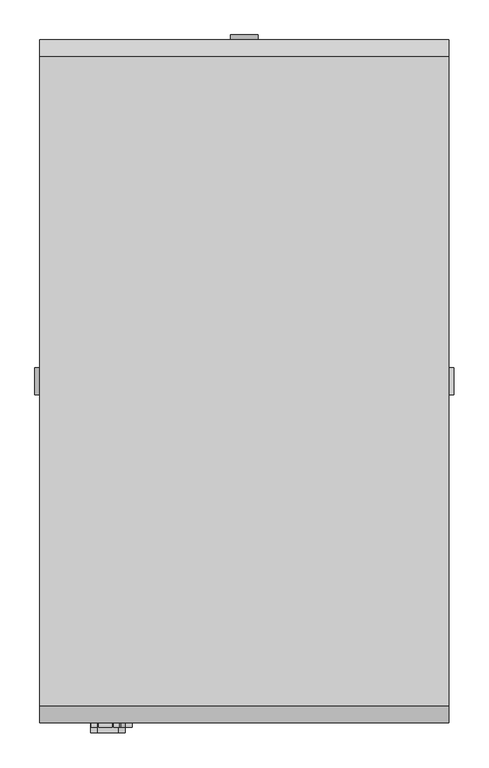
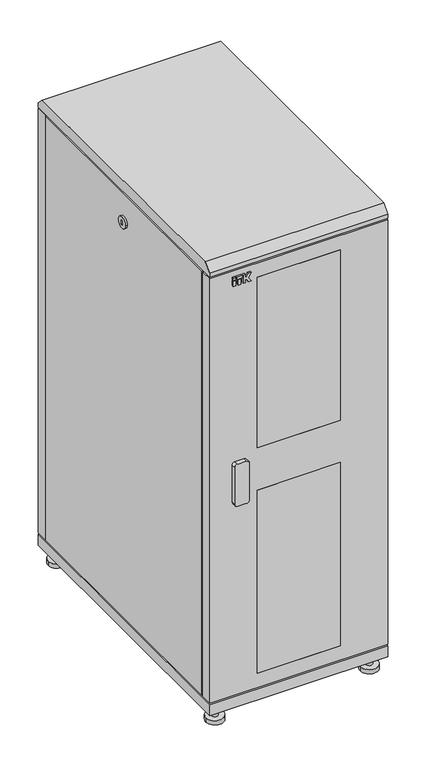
"""IFC4 building model written with IfcOpenShell, lengths in millimetres: proxy geometry, Шкафы ITK серия S_PP : LS05-33U61-PP-1."""

from ifc_helpers import new_model, si_unit, point, frame, frame_2d, origin, origin_with_axes, place, context, project, spatial, polyline, circle_curve, trimmed, segment, composite_curve, outline, extrude, faceted_brep, source, transform, mapped, element, save


def electrical_fixtures_b37db52b(model_context):
    return source(origin(), model_context, "Body", "SolidModel", [
        extrude(outline(polyline([(-215.9746193, -507.0), (-224.197592, -507.0), (-224.197592, -500.0), (-215.9746193, -500.0), (-215.9746193, -507.0)])), frame((0.0, 0.0, 1555.0), z_axis=(0.0, 0.0, 1.0), x_axis=(1.0, 0.0, 0.0)), (0.0, 0.0, 1.0), 18.8087618),
        extrude(outline(polyline([(-199.9605777, -507.0), (-207.7053315, -507.0), (-207.7053315, -500.0), (-199.9605777, -500.0), (-199.9605777, -507.0)])), frame((0.0, 0.0, 1555.0), z_axis=(0.0, 0.0, 1.0), x_axis=(1.0, 0.0, 0.0)), (0.0, 0.0, 1.0), 18.8087618),
        extrude(outline(polyline([(-215.9746193, -507.0), (-224.197592, -507.0), (-224.197592, -500.0), (-215.9746193, -500.0), (-215.9746193, -507.0)])), frame((0.0, 0.0, 1576.4305892), z_axis=(0.0, 0.0, 1.0), x_axis=(1.0, 0.0, 0.0)), (0.0, 0.0, 1.0), 7.9794747),
        extrude(outline(polyline([(1555.0, -191.5184175), (1555.0, -183.7669278), (1566.0271455, -183.7669278), (1566.0271455, -180.8031229), (1555.0, -173.6420108), (1555.0, -164.197592), (1569.7278745, -174.8980192), (1584.410064, -164.197592), (1584.410064, -173.6420108), (1573.3829184, -180.8031229), (1573.3829184, -183.7669278), (1584.410064, -183.7669278), (1584.410064, -191.5184175), (1555.0, -191.5184175)])), frame((0.0, -507.0, 0.0), z_axis=(0.0, 1.0, 0.0), x_axis=(0.0, 0.0, 1.0)), (0.0, 0.0, 1.0), 7.0),
        extrude(outline(polyline([(-194.0851324, -507.0), (-213.5807768, -507.0), (-213.5807768, -500.0), (-194.0851324, -500.0), (-194.0851324, -507.0)])), frame((0.0, 0.0, 1576.4305892), z_axis=(0.0, 0.0, 1.0), x_axis=(1.0, 0.0, 0.0)), (0.0, 0.0, 1.0), 7.9794747),
        extrude(outline(composite_curve([segment(polyline([(925.0, -185.0), (925.0, -215.0)]), True, "CONTINUOUS"), segment(trimmed(circle_curve(frame_2d((915.0, -215.0)), 10.0), [point((925.0, -215.0))], [point((915.0, -225.0))], False, "CARTESIAN"), True, "CONTINUOUS"), segment(polyline([(915.0, -225.0), (785.0, -225.0)]), True, "CONTINUOUS"), segment(trimmed(circle_curve(frame_2d((785.0, -215.0)), 10.0), [point((785.0, -225.0))], [point((775.0, -215.0))], False, "CARTESIAN"), True, "CONTINUOUS"), segment(polyline([(775.0, -215.0), (775.0, -185.0)]), True, "CONTINUOUS"), segment(trimmed(circle_curve(frame_2d((785.0, -185.0)), 10.0), [point((775.0, -185.0))], [point((785.0, -175.0))], False, "CARTESIAN"), True, "CONTINUOUS"), segment(polyline([(785.0, -175.0), (915.0, -175.0)]), True, "CONTINUOUS"), segment(trimmed(circle_curve(frame_2d((915.0, -185.0)), 10.0), [point((915.0, -175.0))], [point((925.0, -185.0))], False, "CARTESIAN"), True, "CONTINUOUS")], self_intersect=False)), frame((0.0, -515.0, 0.0), z_axis=(0.0, 1.0, 0.0), x_axis=(0.0, 0.0, 1.0)), (0.0, 0.0, 1.0), 15.0),
        faceted_brep([(-260.0, -480.0, 1605.0), (-260.0, -445.0, 1605.0), (-270.0, -445.0, 1605.0), (-270.0, -460.0, 1605.0), (-300.0, -460.0, 1605.0), (-300.0, -500.0, 1605.0), (300.0, -500.0, 1605.0), (300.0, -460.0, 1605.0), (270.0, -460.0, 1605.0), (270.0, -445.0, 1605.0), (260.0, -445.0, 1605.0), (260.0, -480.0, 1605.0), (-300.0, -500.0, 95.0), (-300.0, -460.0, 95.0), (-270.0, -460.0, 95.0), (-270.0, -445.0, 95.0), (-260.0, -445.0, 95.0), (-260.0, -480.0, 95.0), (260.0, -480.0, 95.0), (260.0, -445.0, 95.0), (270.0, -445.0, 95.0), (270.0, -460.0, 95.0), (300.0, -460.0, 95.0), (300.0, -500.0, 95.0), (-140.0, -500.0, 797.5), (140.0, -500.0, 797.5), (140.0, -500.0, 145.0), (-140.0, -500.0, 145.0), (-140.0, -500.0, 1555.0), (140.0, -500.0, 1555.0), (140.0, -500.0, 947.5), (-140.0, -500.0, 947.5), (-140.0, -480.0, 145.0), (140.0, -480.0, 145.0), (140.0, -480.0, 797.5), (-140.0, -480.0, 797.5), (-140.0, -480.0, 947.5), (140.0, -480.0, 947.5), (140.0, -480.0, 1555.0), (-140.0, -480.0, 1555.0)], [[[0, 1, 2, 3, 4, 5, 6, 7, 8, 9, 10, 11]], [[12, 13, 14, 15, 16, 17, 18, 19, 20, 21, 22, 23]], [[6, 5, 12, 23], [24, 25, 26, 27], [28, 29, 30, 31]], [[5, 4, 13, 12]], [[4, 3, 14, 13]], [[0, 11, 18, 17], [32, 33, 34, 35], [36, 37, 38, 39]], [[32, 35, 24, 27]], [[36, 39, 28, 31]], [[34, 33, 26, 25]], [[38, 37, 30, 29]], [[27, 26, 33, 32]], [[31, 30, 37, 36]], [[25, 24, 35, 34]], [[29, 28, 39, 38]], [[1, 0, 17, 16]], [[2, 1, 16, 15]], [[3, 2, 15, 14]], [[7, 6, 23, 22]], [[8, 7, 22, 21]], [[9, 8, 21, 20]], [[10, 9, 20, 19]], [[11, 10, 19, 18]]]),
        extrude(outline(polyline([(140.0, -500.0), (-140.0, -500.0), (-140.0, -480.0), (140.0, -480.0), (140.0, -500.0)])), frame((0.0, 0.0, 947.5), z_axis=(0.0, 0.0, 1.0), x_axis=(1.0, 0.0, 0.0)), (0.0, 0.0, 1.0), 607.5),
        extrude(outline(polyline([(140.0, -500.0), (-140.0, -500.0), (-140.0, -480.0), (140.0, -480.0), (140.0, -500.0)])), frame((0.0, 0.0, 145.0), z_axis=(0.0, 0.0, 1.0), x_axis=(1.0, 0.0, 0.0)), (0.0, 0.0, 1.0), 652.5),
        extrude(outline(composite_curve([segment(trimmed(circle_curve(frame_2d((-260.0, 460.0)), 10.0), [point((-250.0, 460.0))], [point((-270.0, 460.0))], False, "CARTESIAN"), True, "CONTINUOUS"), segment(trimmed(circle_curve(frame_2d((-260.0, 460.0)), 10.0), [point((-270.0, 460.0))], [point((-250.0, 460.0))], False, "CARTESIAN"), True, "CONTINUOUS")], self_intersect=False)), frame((0.0, 0.0, 15.0), z_axis=(0.0, 0.0, 1.0), x_axis=(1.0, 0.0, 0.0)), (0.0, 0.0, 1.0), 35.0),
        extrude(outline(composite_curve([segment(trimmed(circle_curve(frame_2d((260.0, 460.0)), 10.0), [point((270.0, 460.0))], [point((250.0, 460.0))], False, "CARTESIAN"), True, "CONTINUOUS"), segment(trimmed(circle_curve(frame_2d((260.0, 460.0)), 10.0), [point((250.0, 460.0))], [point((270.0, 460.0))], False, "CARTESIAN"), True, "CONTINUOUS")], self_intersect=False)), frame((0.0, 0.0, 15.0), z_axis=(0.0, 0.0, 1.0), x_axis=(1.0, 0.0, 0.0)), (0.0, 0.0, 1.0), 35.0),
        extrude(outline(composite_curve([segment(trimmed(circle_curve(frame_2d((-260.0, -460.0)), 10.0), [point((-250.0, -460.0))], [point((-270.0, -460.0))], False, "CARTESIAN"), True, "CONTINUOUS"), segment(trimmed(circle_curve(frame_2d((-260.0, -460.0)), 10.0), [point((-270.0, -460.0))], [point((-250.0, -460.0))], False, "CARTESIAN"), True, "CONTINUOUS")], self_intersect=False)), frame((0.0, 0.0, 15.0), z_axis=(0.0, 0.0, 1.0), x_axis=(1.0, 0.0, 0.0)), (0.0, 0.0, 1.0), 35.0),
        extrude(outline(composite_curve([segment(trimmed(circle_curve(frame_2d((260.0, -460.0)), 10.0), [point((270.0, -460.0))], [point((250.0, -460.0))], False, "CARTESIAN"), True, "CONTINUOUS"), segment(trimmed(circle_curve(frame_2d((260.0, -460.0)), 10.0), [point((250.0, -460.0))], [point((270.0, -460.0))], False, "CARTESIAN"), True, "CONTINUOUS")], self_intersect=False)), frame((0.0, 0.0, 15.0), z_axis=(0.0, 0.0, 1.0), x_axis=(1.0, 0.0, 0.0)), (0.0, 0.0, 1.0), 35.0),
        extrude(outline(composite_curve([segment(trimmed(circle_curve(frame_2d((-260.0, 460.0)), 30.0), [point((-230.0, 460.0))], [point((-290.0, 460.0))], False, "CARTESIAN"), True, "CONTINUOUS"), segment(trimmed(circle_curve(frame_2d((-260.0, 460.0)), 30.0), [point((-290.0, 460.0))], [point((-230.0, 460.0))], False, "CARTESIAN"), True, "CONTINUOUS")], self_intersect=False)), origin_with_axes(), (0.0, 0.0, 1.0), 15.0),
        extrude(outline(composite_curve([segment(trimmed(circle_curve(frame_2d((260.0, 460.0)), 30.0), [point((290.0, 460.0))], [point((230.0, 460.0))], False, "CARTESIAN"), True, "CONTINUOUS"), segment(trimmed(circle_curve(frame_2d((260.0, 460.0)), 30.0), [point((230.0, 460.0))], [point((290.0, 460.0))], False, "CARTESIAN"), True, "CONTINUOUS")], self_intersect=False)), origin_with_axes(), (0.0, 0.0, 1.0), 15.0),
        extrude(outline(composite_curve([segment(trimmed(circle_curve(frame_2d((-260.0, -460.0)), 30.0), [point((-230.0, -460.0))], [point((-290.0, -460.0))], False, "CARTESIAN"), True, "CONTINUOUS"), segment(trimmed(circle_curve(frame_2d((-260.0, -460.0)), 30.0), [point((-290.0, -460.0))], [point((-230.0, -460.0))], False, "CARTESIAN"), True, "CONTINUOUS")], self_intersect=False)), origin_with_axes(), (0.0, 0.0, 1.0), 15.0),
        extrude(outline(composite_curve([segment(trimmed(circle_curve(frame_2d((260.0, -460.0)), 30.0), [point((290.0, -460.0))], [point((230.0, -460.0))], False, "CARTESIAN"), True, "CONTINUOUS"), segment(trimmed(circle_curve(frame_2d((260.0, -460.0)), 30.0), [point((230.0, -460.0))], [point((290.0, -460.0))], False, "CARTESIAN"), True, "CONTINUOUS")], self_intersect=False)), origin_with_axes(), (0.0, 0.0, 1.0), 15.0),
        extrude(outline(polyline([(-475.0, 1650.0), (475.0, 1650.0), (500.0, 1625.0), (500.0, 1610.0), (-500.0, 1610.0), (-500.0, 1625.0), (-475.0, 1650.0)])), frame((-300.0, 0.0, 0.0), z_axis=(1.0, 0.0, 0.0), x_axis=(0.0, 1.0, 0.0)), (0.0, 0.0, 1.0), 600.0),
        extrude(outline(polyline([(260.0, 460.0), (260.0, 445.0), (290.0, 445.0), (290.0, -445.0), (260.0, -445.0), (260.0, -460.0), (245.0, -460.0), (245.0, -480.0), (-245.0, -480.0), (-245.0, -460.0), (-260.0, -460.0), (-260.0, -445.0), (-290.0, -445.0), (-290.0, 445.0), (-260.0, 445.0), (-260.0, 460.0), (-245.0, 460.0), (-245.0, 490.0), (245.0, 490.0), (245.0, 460.0), (260.0, 460.0)])), frame((0.0, 0.0, 90.0), z_axis=(0.0, 0.0, 1.0), x_axis=(1.0, 0.0, 0.0)), (0.0, 0.0, 1.0), 5.0),
        extrude(outline(polyline([(260.0, 460.0), (260.0, 445.0), (290.0, 445.0), (290.0, -445.0), (260.0, -445.0), (260.0, -460.0), (245.0, -460.0), (245.0, -480.0), (-245.0, -480.0), (-245.0, -460.0), (-260.0, -460.0), (-260.0, -445.0), (-290.0, -445.0), (-290.0, 445.0), (-260.0, 445.0), (-260.0, 460.0), (-245.0, 460.0), (-245.0, 490.0), (245.0, 490.0), (245.0, 460.0), (260.0, 460.0)])), frame((0.0, 0.0, 1605.0), z_axis=(0.0, 0.0, 1.0), x_axis=(1.0, 0.0, 0.0)), (0.0, 0.0, 1.0), 5.0),
        extrude(outline(polyline([(300.0, -500.0), (-300.0, -500.0), (-300.0, 500.0), (300.0, 500.0), (300.0, -500.0)])), frame((0.0, 0.0, 50.0), z_axis=(0.0, 0.0, 1.0), x_axis=(1.0, 0.0, 0.0)), (0.0, 0.0, 1.0), 40.0),
        extrude(outline(composite_curve([segment(trimmed(circle_curve(frame_2d((1505.0, 0.0)), 20.0), [point((1505.0, 20.0))], [point((1505.0, -20.0))], False, "CARTESIAN"), True, "CONTINUOUS"), segment(trimmed(circle_curve(frame_2d((1505.0, 0.0)), 20.0), [point((1505.0, -20.0))], [point((1505.0, 20.0))], False, "CARTESIAN"), True, "CONTINUOUS")], self_intersect=False), holes=[polyline([(1496.7814397, -3.0), (1513.2185603, -3.0), (1513.2185603, 3.0), (1496.7814397, 3.0), (1496.7814397, -3.0)])]), frame((0.0, 500.0, 0.0), z_axis=(0.0, 1.0, 0.0), x_axis=(0.0, 0.0, 1.0)), (0.0, 0.0, 1.0), 7.0),
        extrude(outline(polyline([(300.0, 500.0), (300.0, 460.0), (270.0, 460.0), (270.0, 445.0), (260.0, 445.0), (260.0, 490.0), (-260.0, 490.0), (-260.0, 445.0), (-270.0, 445.0), (-270.0, 460.0), (-300.0, 460.0), (-300.0, 500.0), (300.0, 500.0)])), frame((0.0, 0.0, 95.0), z_axis=(0.0, 0.0, 1.0), x_axis=(1.0, 0.0, 0.0)), (0.0, 0.0, 1.0), 1510.0),
        extrude(outline(composite_curve([segment(trimmed(circle_curve(frame_2d((0.0, 1505.0)), 20.0), [point((-20.0, 1505.0))], [point((20.0, 1505.0))], False, "CARTESIAN"), True, "CONTINUOUS"), segment(trimmed(circle_curve(frame_2d((0.0, 1505.0)), 20.0), [point((20.0, 1505.0))], [point((-20.0, 1505.0))], False, "CARTESIAN"), True, "CONTINUOUS")], self_intersect=False), holes=[polyline([(3.0, 1496.7814397), (3.0, 1513.2185603), (-3.0, 1513.2185603), (-3.0, 1496.7814397), (3.0, 1496.7814397)])]), frame((300.0, 0.0, 0.0), z_axis=(1.0, 0.0, 0.0), x_axis=(0.0, 1.0, 0.0)), (0.0, 0.0, 1.0), 7.0),
        extrude(outline(composite_curve([segment(trimmed(circle_curve(frame_2d((0.0, 1505.0)), 20.0), [point((20.0, 1505.0))], [point((-20.0, 1505.0))], False, "CARTESIAN"), True, "CONTINUOUS"), segment(trimmed(circle_curve(frame_2d((0.0, 1505.0)), 20.0), [point((-20.0, 1505.0))], [point((20.0, 1505.0))], False, "CARTESIAN"), True, "CONTINUOUS")], self_intersect=False), holes=[polyline([(-3.0, 1496.7814397), (3.0, 1496.7814397), (3.0, 1513.2185603), (-3.0, 1513.2185603), (-3.0, 1496.7814397)])]), frame((-307.0, 0.0, 0.0), z_axis=(1.0, 0.0, 0.0), x_axis=(0.0, 1.0, 0.0)), (0.0, 0.0, 1.0), 7.0),
        extrude(outline(polyline([(-270.0, 455.0), (-270.0, 445.0), (-289.9803177, 445.0), (-289.9803177, -445.0), (-269.9803177, -445.0), (-269.9803177, -455.0), (-300.0, -455.0), (-300.0, 455.0), (-270.0, 455.0)])), frame((0.0, 0.0, 95.0), z_axis=(0.0, 0.0, 1.0), x_axis=(1.0, 0.0, 0.0)), (0.0, 0.0, 1.0), 1510.0),
        extrude(outline(polyline([(269.9803177, 455.0), (300.0, 455.0), (300.0, -455.0), (269.9803177, -455.0), (269.9803177, -445.0), (289.9803177, -445.0), (289.9803177, 445.0), (269.9803177, 445.0), (269.9803177, 455.0)])), frame((0.0, 0.0, 95.0), z_axis=(0.0, 0.0, 1.0), x_axis=(1.0, 0.0, 0.0)), (0.0, 0.0, 1.0), 1510.0),
    ])


if __name__ == "__main__":
    model = new_model("IFC4")
    model_context = context("Model", 3, world=origin())
    ifc_project = project(units=[si_unit("LENGTHUNIT", "METRE", prefix="MILLI")], contexts=[model_context])
    site = spatial("IfcSite", under=ifc_project)
    building = spatial("IfcBuilding", under=site)
    placement = place(None, origin())
    electrical_fixtures_shape = electrical_fixtures_b37db52b(model_context)
    element("IfcBuildingElementProxy", 1, Name="Шкафы ITK серия S_PP : LS05-33U61-PP-1", ObjectType="Шкафы ITK серия S_PP : LS05-33U61-PP-1", at=placement, inside=building, context=model_context, shape_type="MappedRepresentation", body=[
        mapped(electrical_fixtures_shape, transform((0.0, 0.0, 0.0), x_axis=(1.0, 0.0, 0.0), y_axis=(0.0, 1.0, 0.0), z_axis=(0.0, 0.0, 1.0))),
    ])
    save(model, "model.ifc")
